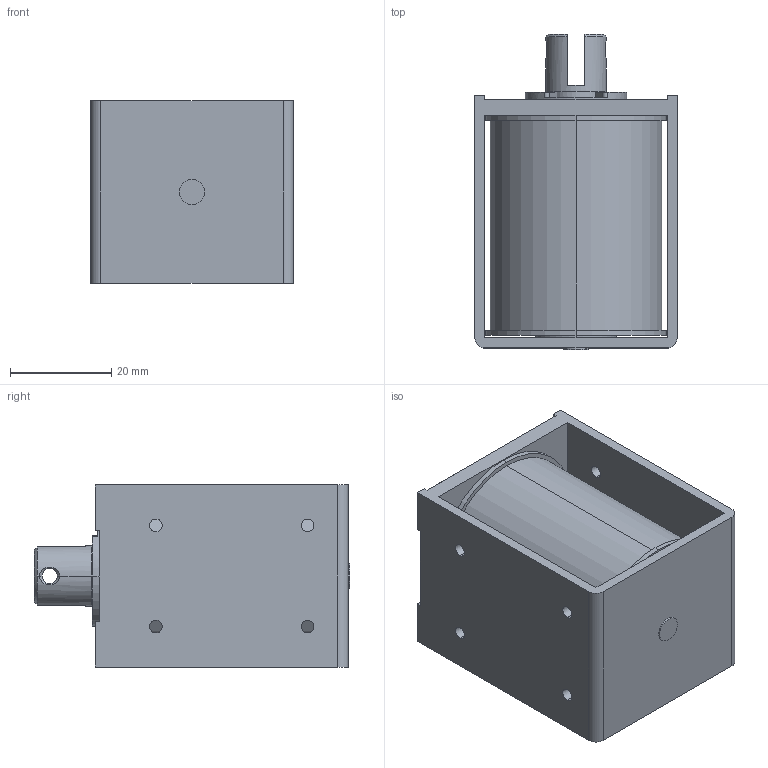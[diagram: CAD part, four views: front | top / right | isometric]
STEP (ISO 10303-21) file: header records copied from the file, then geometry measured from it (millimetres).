
FILE_DESCRIPTION (( 'STEP AP203' ), '1' );
FILE_NAME ('w_ce1250.STEP', '2014-07-24T04:10:09', ( 'jiba' ), ( 'Hewlett-Packard Company' ), 'SwSTEP 2.0', 'SolidWorks 2014', '' );
FILE_SCHEMA (( 'CONFIG_CONTROL_DESIGN' ));
Length unit declared in the file: millimetre
Products named in the file (3): Part6^w_ce1250; Part1^w_ce1250_pl; w_ce1250
Assembly tree (2 placements, depth 2):
  w_ce1250
    Part6^w_ce1250
    Part1^w_ce1250_pl
Bounding box: 40 x 62.3 x 36 mm (x, y, z)
Volume: 54514.6 mm3; surface area: 21755.1 mm2
Topology: 2 solids, 2 shells, 120 faces, 321 edges, 207 vertices
Faces by surface type: cylinder 59, plane 54, cone 7
Entity records: 4247 total; most frequent: CARTESIAN_POINT 769, DIRECTION 708, ORIENTED_EDGE 642, EDGE_CURVE 321, AXIS2_PLACEMENT_3D 270, VERTEX_POINT 207, VECTOR 168, LINE 168
